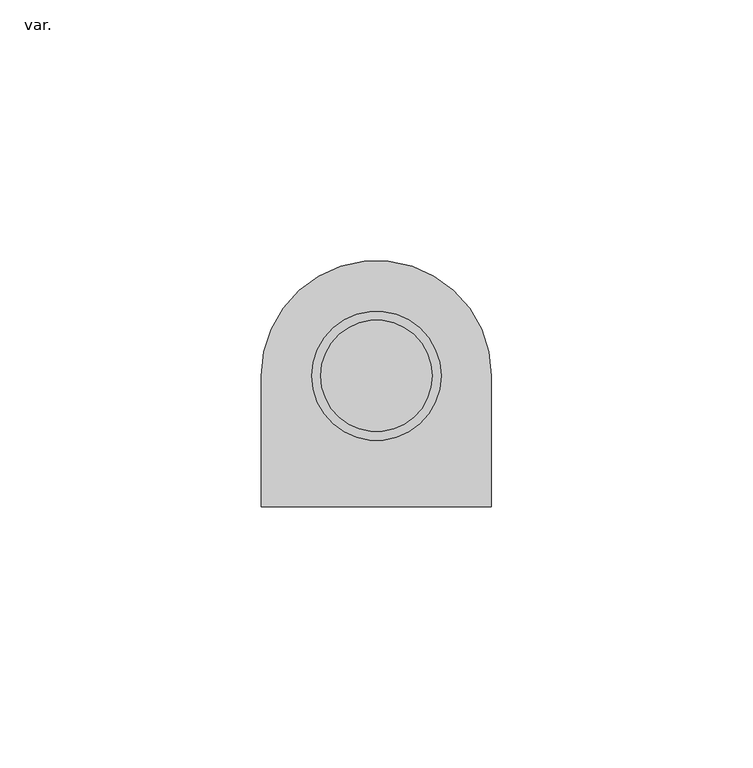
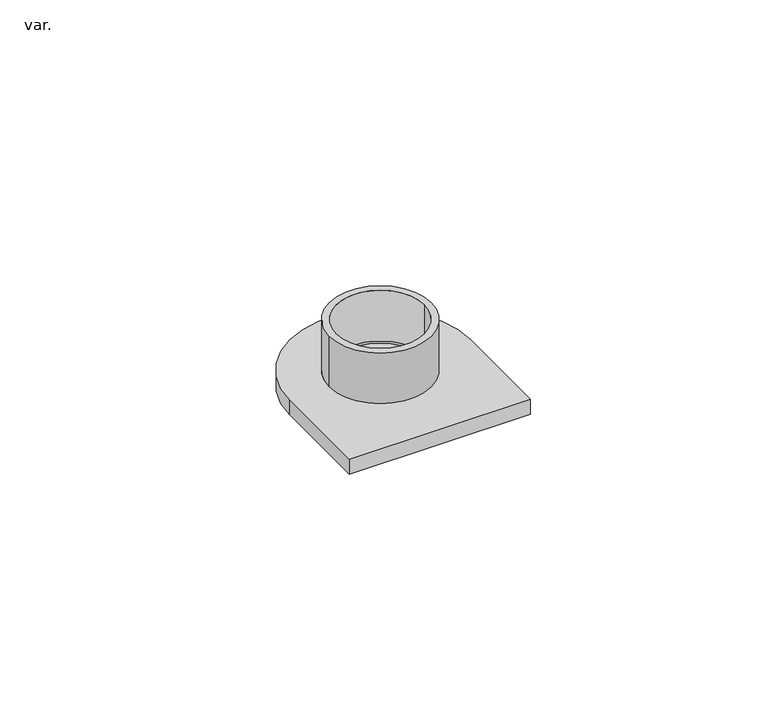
"""IFC4 building model written with IfcOpenShell, lengths in millimetres: pipe fitting geometry, AmancoWavin_ConexõesdoConduite_LinhaEletricaeZNãoUsarElectroAmancoAdaptador : var.."""

from ifc_helpers import new_model, si_unit, frame, origin, origin_with_axes, place, context, project, spatial, polyline, circle_curve, source, transform, mapped, element, save
from ifc_brep_helpers import plane_surface, cylinder_surface, revolved_surface, advanced_brep


def var_c04d02d2(model_context):
    return source(origin(), model_context, "Body", "AdvancedBrep", [
        advanced_brep(
        [(-22.0, 0.0, 3.85), (-22.0, -25.0, 3.85), (22.0, -25.0, 3.85), (22.0, 0.0, 3.85), (12.35, 0.0, 3.85), (-12.35, 0.0, 3.85), (-22.0, 0.0, 0.0), (22.0, 0.0, 0.0), (22.0, -25.0, 0.0), (-22.0, -25.0, 0.0), (-12.35, 0.0, 16.85), (12.35, 0.0, 16.85), (-10.65, 0.0, 16.85), (10.65, 0.0, 16.85), (-10.65, 0.0, 3.85), (10.65, 0.0, 3.85), (-10.65, 0.0, 3.25), (10.65, 0.0, 3.25)],
        [
            (0, 1),
            (1, 2),
            (2, 3),
            (3, 0, circle_curve(frame((0.0, 0.0, 3.85), z_axis=(0.0, 0.0, 1.0), x_axis=(1.0, 0.0, 0.0)), 22.0)),
            (4, 5, circle_curve(frame((0.0, 0.0, 3.85), z_axis=(0.0, 0.0, -1.0), x_axis=(1.0, 0.0, 0.0)), 12.35)),
            (5, 4, circle_curve(frame((0.0, 0.0, 3.85), z_axis=(0.0, 0.0, -1.0), x_axis=(1.0, 0.0, 0.0)), 12.35)),
            (6, 7, circle_curve(frame((0.0, 0.0, 0.0), z_axis=(0.0, 0.0, -1.0), x_axis=(1.0, 0.0, 0.0)), 22.0)),
            (7, 8),
            (8, 9),
            (9, 6),
            (0, 6),
            (9, 1),
            (8, 2),
            (7, 3),
            (10, 11, circle_curve(frame((0.0, 0.0, 16.85), z_axis=(0.0, 0.0, 1.0), x_axis=(1.0, 0.0, 0.0)), 12.35)),
            (11, 10, circle_curve(frame((0.0, 0.0, 16.85), z_axis=(0.0, 0.0, 1.0), x_axis=(1.0, 0.0, 0.0)), 12.35)),
            (12, 13, circle_curve(frame((0.0, 0.0, 16.85), z_axis=(0.0, 0.0, -1.0), x_axis=(1.0, 0.0, 0.0)), 10.65)),
            (13, 12, circle_curve(frame((0.0, 0.0, 16.85), z_axis=(0.0, 0.0, -1.0), x_axis=(1.0, 0.0, 0.0)), 10.65)),
            (10, 5),
            (4, 11),
            (12, 14),
            (14, 15, circle_curve(frame((0.0, 0.0, 3.85), z_axis=(0.0, 0.0, -1.0), x_axis=(1.0, 0.0, 0.0)), 10.65)),
            (15, 13),
            (15, 14, circle_curve(frame((0.0, 0.0, 3.85), z_axis=(0.0, 0.0, -1.0), x_axis=(1.0, 0.0, 0.0)), 10.65)),
            (16, 17, circle_curve(frame((0.0, 0.0, 3.25), z_axis=(0.0, 0.0, 1.0), x_axis=(1.0, 0.0, 0.0)), 10.65)),
            (17, 16, circle_curve(frame((0.0, 0.0, 3.25), z_axis=(0.0, 0.0, 1.0), x_axis=(1.0, 0.0, 0.0)), 10.65)),
            (16, 14),
            (15, 17),
        ],
        [
            plane_surface(frame((-22.0, -25.0, 3.85), z_axis=(0.0, 0.0, 1.0), x_axis=(0.0, -1.0, 0.0))),
            plane_surface(frame((-22.0, -25.0, 0.0), z_axis=(0.0, 0.0, -1.0), x_axis=(0.0, 1.0, 0.0))),
            plane_surface(frame((-22.0, 0.0, 3.85), z_axis=(-1.0, 0.0, 0.0), x_axis=(0.0, 0.0, -1.0))),
            plane_surface(frame((-22.0, -25.0, 3.85), z_axis=(0.0, -1.0, 0.0), x_axis=(0.0, 0.0, -1.0))),
            plane_surface(frame((22.0, -25.0, 3.85), z_axis=(1.0, 0.0, 0.0), x_axis=(0.0, 0.0, -1.0))),
            cylinder_surface(origin_with_axes(), 22.0),
            plane_surface(frame((12.35, 0.0, 16.85), z_axis=(0.0, 0.0, 1.0), x_axis=(0.0, 1.0, 0.0))),
            cylinder_surface(frame((0.0, 0.0, 3.25), z_axis=(0.0, 0.0, 1.0), x_axis=(1.0, 0.0, 0.0)), 12.35),
            revolved_surface(polyline([(10.65, 0.0, 3.85), (10.65, 0.0, 16.85)]), (0.0, 0.0, 0.0), (0.0, 0.0, -1.0)),
            plane_surface(frame((10.65, 0.0, 3.25), z_axis=(0.0, 0.0, 1.0), x_axis=(0.0, -1.0, 0.0))),
            revolved_surface(polyline([(10.65, 0.0, 3.85), (10.65, 0.0, 3.25)]), (0.0, 0.0, 3.25), (0.0, 0.0, 1.0)),
        ],
        [
            (0, [[1, 2, 3, 4], [5, 6]]),
            (1, [[7, 8, 9, 10]]),
            (2, [[-1, 11, -10, 12]]),
            (3, [[-2, -12, -9, 13]]),
            (4, [[-3, -13, -8, 14]]),
            (5, [[-4, -14, -7, -11]]),
            (6, [[15, 16], [17, 18]]),
            (7, [[-15, 19, -5, 20]]),
            (7, [[-16, -20, -6, -19]]),
            (8, [[-17, 21, 22, 23]]),
            (8, [[-18, -23, 24, -21]]),
            (9, [[25, 26]]),
            (10, [[-25, 27, -24, 28]]),
            (10, [[-26, -28, -22, -27]]),
        ],
    ),
    ])


if __name__ == "__main__":
    model = new_model("IFC4")
    model_context = context("Model", 3, world=origin())
    ifc_project = project(units=[si_unit("LENGTHUNIT", "METRE", prefix="MILLI")], contexts=[model_context])
    site = spatial("IfcSite", under=ifc_project)
    building = spatial("IfcBuilding", under=site)
    placement = place(None, origin())
    var_shape = var_c04d02d2(model_context)
    element("IfcPipeFitting", 1, ObjectType="AmancoWavin_ConexõesdoConduite_LinhaEletricaeZNãoUsarElectroAmancoAdaptador : var.", at=placement, inside=building, context=model_context, shape_type="MappedRepresentation", body=[
        mapped(var_shape, transform((0.0, 0.0, 0.0), x_axis=(1.0, 0.0, 0.0), y_axis=(0.0, 1.0, 0.0), z_axis=(0.0, 0.0, 1.0))),
    ])
    save(model, "model.ifc")
